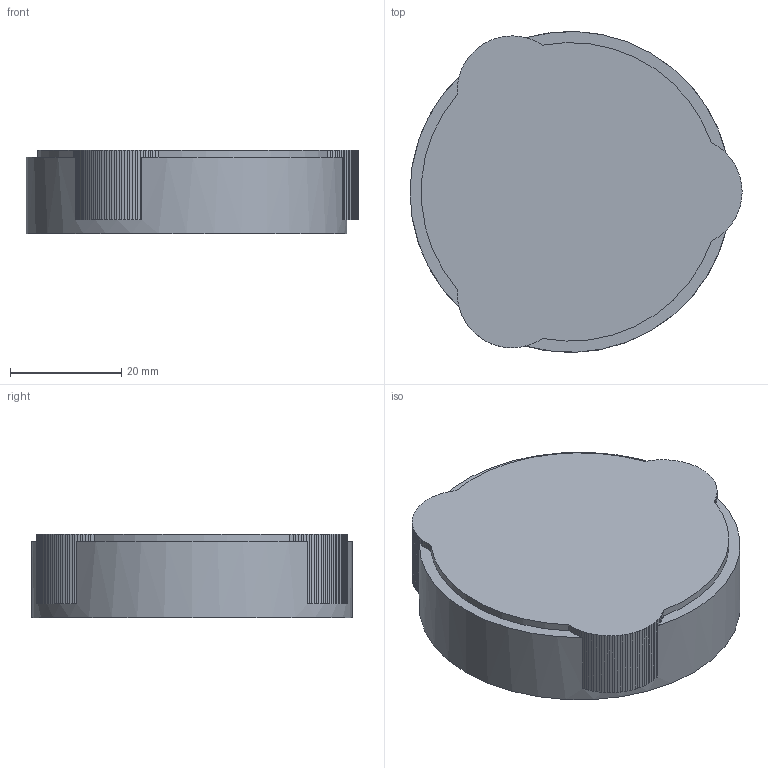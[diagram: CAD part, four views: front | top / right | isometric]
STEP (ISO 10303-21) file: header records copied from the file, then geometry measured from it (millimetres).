
FILE_DESCRIPTION(('Open CASCADE Model'),'2;1');
FILE_NAME('Open CASCADE Shape Model','2026-11-13T04:59:59',('Author'),( 'Open CASCADE'),'Open CASCADE STEP processor 7.9','Open CASCADE 7.9' ,'Unknown');
FILE_SCHEMA(('AUTOMOTIVE_DESIGN { 1 0 10303 214 1 1 1 1 }'));
Length unit declared in the file: millimetre
Products named in the file (1): Open CASCADE STEP translator 7.9 4
Bounding box: 59.6 x 57.6 x 15 mm (x, y, z)
Volume: 11608 mm3; surface area: 10557.2 mm2
Topology: 1 solids, 1 shells, 165 faces, 477 edges, 318 vertices
Faces by surface type: plane 155, cylinder 10
Full cylindrical faces by diameter (mm): 50 x1, 51.95 x1, 57.6 x1
Entity records: 11442 total; most frequent: CARTESIAN_POINT 2075, DIRECTION 1659, LINE 1255, VECTOR 1255, ORIENTED_EDGE 954, PCURVE 954, DEFINITIONAL_REPRESENTATION 954, EDGE_CURVE 477
